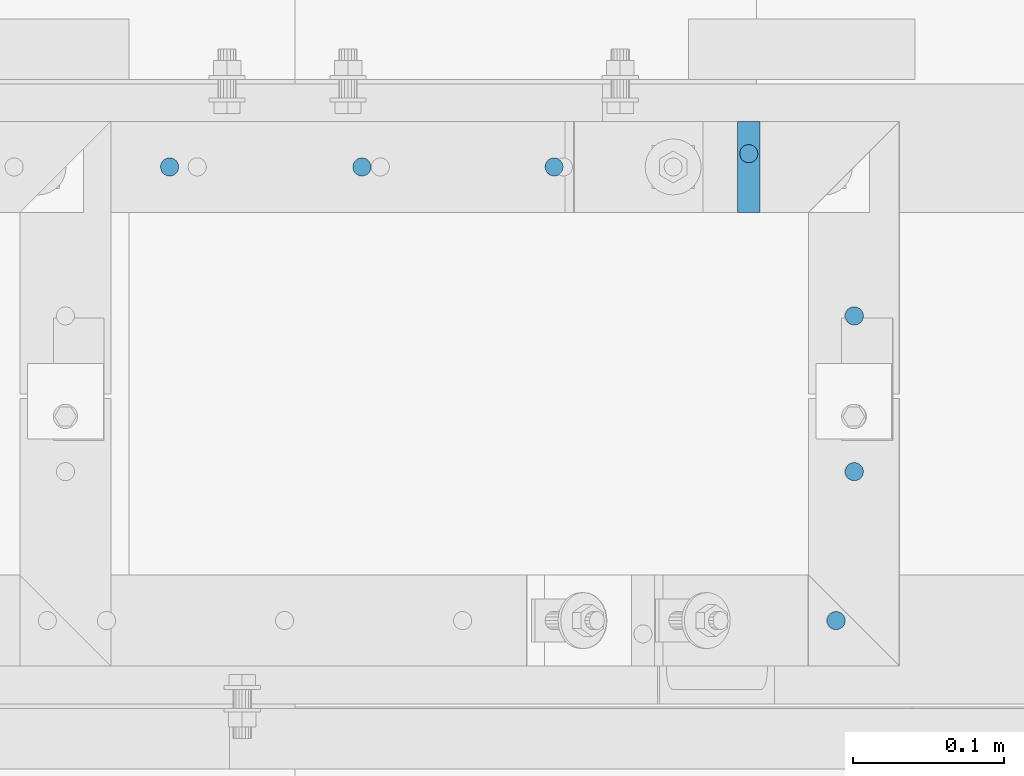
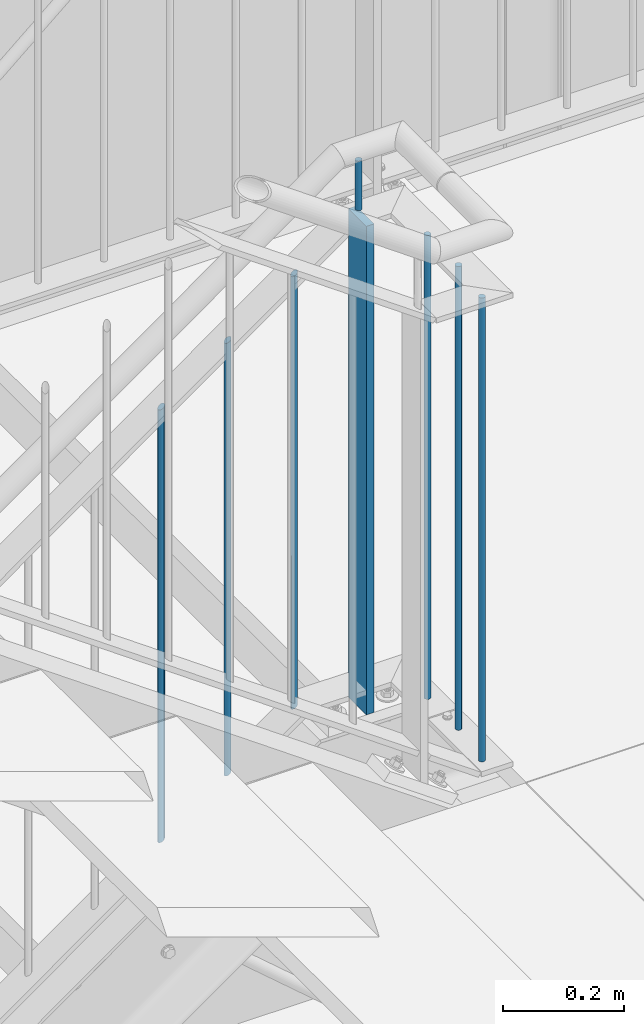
# One storey, part 92 of 825: 8 columns.
"""IFC2X3 building model written with IfcOpenShell, lengths in millimetres."""

import ifcopenshell
import ifcopenshell.guid

model = None  # the IFC model being written
_history = None  # IfcOwnerHistory: only IFC2X3 demands one
_inside = {}  # id of a spatial element -> (the spatial element, [elements in it])
_under = {}  # id of a project, library or spatial element -> (it, [spatial elements below it])
_declared = {}  # id of a project -> (the project, [libraries it declares])
_typed = {}  # id of a type object -> (the type object, [elements of that type])
_made_of = {}  # id of a material, layer set ... -> (it, [elements and type objects made of it])


def new_model(schema):
    """Start an empty IFC model of exactly this schema.

    Asked for "IFC4X3", IfcOpenShell would pick the latest addendum, in which some entities
    have other attributes; the version numbers below select the first issue.
    IFC2X3 requires an IfcOwnerHistory on every rooted entity: one is made here for all.
    """
    global model, _history
    if schema == "IFC4X3":
        model = ifcopenshell.file(schema_version=(4, 3, 0, 0))
    else:
        model = ifcopenshell.file(schema=schema)
    _inside.clear()
    _under.clear()
    _declared.clear()
    _typed.clear()
    _made_of.clear()
    _history = None
    if model.schema == "IFC2X3":
        org = make("IfcOrganization", Name="unknown")
        user = make(
            "IfcPersonAndOrganization",
            ThePerson=make("IfcPerson", FamilyName="unknown"),
            TheOrganization=org,
        )
        app = make(
            "IfcApplication",
            ApplicationDeveloper=org,
            Version="unknown",
            ApplicationFullName="unknown",
            ApplicationIdentifier="unknown",
        )
        _history = make(
            "IfcOwnerHistory",
            OwningUser=user,
            OwningApplication=app,
            ChangeAction="ADDED",
            CreationDate=0,
        )
    return model


def make(cls, **values):
    """One entity of the class cls with the attributes given. An attribute that is None is left unset."""
    return model.create_entity(
        cls, **{name: value for name, value in values.items() if value is not None}
    )


def entity(cls, *values):
    """Any entity or typed value of the class cls, its attributes in the order of the schema. None: left unset."""
    e = model.create_entity(cls)
    for i, value in enumerate(values):
        if value is not None:
            e[i] = value
    return e


def rooted(cls, **values):
    """An entity with a GlobalId (a new one), such as an element, a storey or a relation."""
    return make(cls, GlobalId=ifcopenshell.guid.new(), OwnerHistory=_history, **values)


def si_unit(unit_type, name, prefix=None):
    """IfcSIUnit, for example si_unit("LENGTHUNIT", "METRE", prefix="MILLI")."""
    return make("IfcSIUnit", UnitType=unit_type, Prefix=prefix, Name=name)


def converted_unit(unit_type, name, factor, base, dimensions=None, offset=None):
    """IfcConversionBasedUnit, such as the inch: factor (a typed value) times the base unit."""
    return make(
        "IfcConversionBasedUnit"
        if offset is None
        else "IfcConversionBasedUnitWithOffset",
        ConversionOffset=offset,
        Dimensions=None
        if dimensions is None
        else entity("IfcDimensionalExponents", *dimensions),
        UnitType=unit_type,
        Name=name,
        ConversionFactor=make(
            "IfcMeasureWithUnit", ValueComponent=factor, UnitComponent=base
        ),
    )


def assignment(units):
    """IfcUnitAssignment: the units of a project."""
    return None if units is None else make("IfcUnitAssignment", Units=units)


def point(xyz):
    """IfcCartesianPoint."""
    return None if xyz is None else make("IfcCartesianPoint", Coordinates=xyz)


def direction(xyz):
    """IfcDirection."""
    return None if xyz is None else make("IfcDirection", DirectionRatios=xyz)


def frame(location, z_axis=None, x_axis=None):
    """IfcAxis2Placement3D, a coordinate frame: its origin and axes. An axis left out is left unset."""
    return make(
        "IfcAxis2Placement3D",
        Location=point(location),
        Axis=direction(z_axis),
        RefDirection=direction(x_axis),
    )


def frame_2d(location, x_axis=None):
    """IfcAxis2Placement2D, a coordinate frame in the plane: its origin and x axis."""
    return make(
        "IfcAxis2Placement2D", Location=point(location), RefDirection=direction(x_axis)
    )


def origin():
    """The frame at (0, 0, 0) with its axes left unset."""
    return frame((0.0, 0.0, 0.0))


def origin_with_axes():
    """The frame at (0, 0, 0) with the z axis (0, 0, 1) and the x axis (1, 0, 0) written out."""
    return frame((0.0, 0.0, 0.0), z_axis=(0.0, 0.0, 1.0), x_axis=(1.0, 0.0, 0.0))


def origin_2d():
    """The frame at (0, 0) in the plane with its x axis left unset."""
    return frame_2d((0.0, 0.0))


def place(relative_to, where):
    """IfcLocalPlacement: puts the frame where relative to a parent placement (None: the world)."""
    return make(
        "IfcLocalPlacement", PlacementRelTo=relative_to, RelativePlacement=where
    )


def context(
    kind, dimensions, precision=None, world=None, true_north=None, identifier=None
):
    """IfcGeometricRepresentationContext, for example the 3D "Model" context."""
    return make(
        "IfcGeometricRepresentationContext",
        ContextIdentifier=identifier,
        ContextType=kind,
        CoordinateSpaceDimension=dimensions,
        Precision=precision,
        WorldCoordinateSystem=world,
        TrueNorth=true_north,
    )


def project(units=None, contexts=None):
    """IfcProject with its units and contexts."""
    return rooted(
        "IfcProject",
        Name="project",
        RepresentationContexts=contexts,
        UnitsInContext=assignment(units),
    )


def spatial(cls, under=None, at=None, **own):
    """A site, building, storey or space (cls), placed at a placement, below another one or the project."""
    s = rooted(cls, ObjectPlacement=at, **own)
    if under is not None:
        _under.setdefault(under.id(), (under, []))[1].append(s)
    return s


def profile(cls, at=None, kind="AREA", **sizes):
    """A parametric profile (cls). Its sizes go by their IFC names, for example OverallWidth=200.0."""
    return make(cls, ProfileType=kind, Position=at, **sizes)


def rectangle(**sizes):
    """IfcRectangleProfileDef."""
    return profile("IfcRectangleProfileDef", **sizes)


def circle(**sizes):
    """IfcCircleProfileDef."""
    return profile("IfcCircleProfileDef", **sizes)


def extrude(swept, where, along, depth):
    """IfcExtrudedAreaSolid: the profile swept, set in the frame where, extruded along a direction by depth."""
    return make(
        "IfcExtrudedAreaSolid",
        SweptArea=swept,
        Position=where,
        ExtrudedDirection=direction(along),
        Depth=depth,
    )


def clip(a, b, op="DIFFERENCE"):
    """IfcBooleanClippingResult: the solid a cut by the half space b."""
    return make(
        "IfcBooleanClippingResult", Operator=op, FirstOperand=a, SecondOperand=b
    )


def halfspace(plane, agree):
    """IfcHalfSpaceSolid: all space on one side of the plane z = 0 of the frame plane."""
    return make(
        "IfcHalfSpaceSolid",
        BaseSurface=make("IfcPlane", Position=plane),
        AgreementFlag=agree,
    )


def shape(context_of_items, identifier, shape_type, items):
    """IfcShapeRepresentation: the items that make up one representation, for example the "Body"."""
    return make(
        "IfcShapeRepresentation",
        ContextOfItems=context_of_items,
        RepresentationIdentifier=identifier,
        RepresentationType=shape_type,
        Items=items,
    )


def material(Name=None, Category=None):
    """IfcMaterial."""
    return make("IfcMaterial", Name=Name, Category=Category)


def made_of(thing, what):
    """Note that an element or type object is made of a material, layer set ...; save() writes the relation."""
    if what is not None:
        _made_of.setdefault(what.id(), (what, []))[1].append(thing)
    return thing


def element(
    cls,
    number,
    at=None,
    inside=None,
    cuts=None,
    type_object=None,
    material=None,
    context=None,
    identifier="Body",
    shape_type=None,
    held_by="IfcProductDefinitionShape",
    body=None,
    shapes=None,
    **own,
):
    """One element of the class cls, such as IfcWall. Its Tag is "e" and its number.

    at: its placement. inside: the storey or other place that contains it. cuts: it is an
    opening in that element (IfcRelVoidsElement). A single representation is given by context,
    identifier, shape_type and body (its items); several are given by shapes. held_by: the class
    of the entity that holds the representations. save() writes the other relations.
    """
    e = rooted(cls, Tag="e%d" % number, ObjectPlacement=at, **own)
    if body is not None:
        shapes = [shape(context, identifier, shape_type, body)]
    if shapes is not None:
        e.Representation = make(held_by, Representations=shapes)
    if inside is not None:
        _inside.setdefault(inside.id(), (inside, []))[1].append(e)
    if cuts is not None:
        rooted(
            "IfcRelVoidsElement", RelatingBuildingElement=cuts, RelatedOpeningElement=e
        )
    if type_object is not None:
        _typed.setdefault(type_object.id(), (type_object, []))[1].append(e)
    return made_of(e, material)


def aggregate(whole, parts):
    """IfcRelAggregates: a whole, such as a stair, and the parts it consists of."""
    return rooted("IfcRelAggregates", RelatingObject=whole, RelatedObjects=parts)


def save(model, path):
    """Write the relations noted so far, then the file.

    IfcRelAggregates (storeys below a building ...), IfcRelContainedInSpatialStructure (elements
    in a storey), IfcRelDefinesByType, IfcRelAssociatesMaterial and IfcRelDeclares: one each for
    every whole, place, type object, material and project.
    """
    for whole, parts in _under.values():
        aggregate(whole, parts)
    for where, things in _inside.values():
        rooted(
            "IfcRelContainedInSpatialStructure",
            RelatedElements=things,
            RelatingStructure=where,
        )
    for kind, things in _typed.values():
        rooted("IfcRelDefinesByType", RelatedObjects=things, RelatingType=kind)
    for what, things in _made_of.values():
        rooted("IfcRelAssociatesMaterial", RelatedObjects=things, RelatingMaterial=what)
    for by, libraries in _declared.values():
        rooted("IfcRelDeclares", RelatingContext=by, RelatedDefinitions=libraries)
    model.write(path)


model = new_model("IFC2X3")

# Units and contexts
model_context = context("Model", 3, precision=1e-09, world=origin_with_axes())
ifc_project = project(units=[si_unit("LENGTHUNIT", "METRE", prefix="MILLI"), si_unit("AREAUNIT", "SQUARE_METRE"), si_unit("VOLUMEUNIT", "CUBIC_METRE"), converted_unit("PLANEANGLEUNIT", "DEGREE", entity("IfcPlaneAngleMeasure", 0.01745329), si_unit("PLANEANGLEUNIT", "RADIAN"), dimensions=[0, 0, 0, 0, 0, 0, 0])], contexts=[model_context])

# Site, building, storey
site_placement = place(None, origin_with_axes())
site = spatial("IfcSite", under=ifc_project, at=site_placement, Name="Cnopf'sche Kinderklinik", CompositionType="ELEMENT")
building_placement = place(site_placement, origin_with_axes())
building = spatial("IfcBuilding", under=site, at=building_placement, Name="Struktur 1", CompositionType="ELEMENT")
storey_placement = place(building_placement, origin_with_axes())
storey = spatial("IfcBuildingStorey", under=building, at=storey_placement, Name="Default Storey", CompositionType="ELEMENT", Elevation=0.0)

# Columns
ifc_material = material(Name="S235JR")
for number, where, z_axis, x_axis, name in (
    (1, (7674.536342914, 5791.736971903, 3189.8526312), (0.0, 0.0, 1.0), (-1.0, 0.0, 0.0), "Railing_Picket_Stair#0"),
    (2, (7686.536342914, 5890.236971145, 3189.8526312), (0.0, 0.0, 1.0), (-1.0, 0.0, 0.0), "Railing_Picket_Stair#0"),
    (3, (7686.536342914, 5993.236971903, 3189.8526312), (0.0, 0.0, 1.0), (-1.0, 0.0, 0.0), "Railing_Picket_Stair#0"),
):
    element("IfcColumn", number, at=place(None, frame(where, z_axis=z_axis, x_axis=x_axis)), inside=storey, material=ifc_material, Name=name, ObjectType="Railing_Picket_Stair#0", context=model_context, shape_type="SweptSolid", body=[
        extrude(circle(Radius=6.0, at=origin_2d()), origin(), (0.0, 0.0, -1.0), 938.8),
    ])
column_1_placement = place(None, frame((7616.713902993, 6091.736971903, 3220.775923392), z_axis=(0.0, 0.0, 1.0), x_axis=(1.0, 0.0, 0.0)))
element("IfcColumn", 4, at=column_1_placement, inside=storey, material=ifc_material, Name="Railing_Post_Landing#2", ObjectType="Railing_Post_Landing#2", context=model_context, shape_type="Clipping", body=[
    clip(clip(extrude(rectangle(XDim=15.0, YDim=60.0, at=origin_2d()), origin(), (0.0, 0.0, -1.0), 1070.646584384), halfspace(frame((-7616.713902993, -6091.736971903, -1019.722292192), z_axis=(0.0, 0.0, 1.0), x_axis=(1.0, 0.0, 0.0)), True)), halfspace(frame((-7616.713902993, -6091.736971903, -30.924292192), z_axis=(0.0, 0.0, -1.0), x_axis=(-1.0, 0.0, 0.0)), True)),
])
column_2_placement = place(None, frame((7233.712534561, 6091.736971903, 2948.972146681), z_axis=(0.0, 0.0, 1.0), x_axis=(1.0, 0.0, 0.0)))
element("IfcColumn", 5, at=column_2_placement, inside=storey, material=ifc_material, Name="Railing_Picket_Stair#13", ObjectType="Railing_Picket_Stair#13", context=model_context, shape_type="Clipping", body=[
    clip(clip(extrude(circle(Radius=6.0, at=origin_2d()), origin(), (0.0, 0.0, -1.0), 896.604693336), halfspace(frame((-6188.880635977, -6091.736971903, -4416.549507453), z_axis=(0.579973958, 0.0, -0.814635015), x_axis=(0.0, 1.0, 0.0)), True)), halfspace(frame((-5775.108066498, -6091.736971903, -4997.737023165), z_axis=(-0.579973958, 0.0, 0.814635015), x_axis=(0.0, -1.0, 0.0)), True)),
])
column_3_placement = place(None, frame((7360.878218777, 6091.736971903, 3039.506906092), z_axis=(0.0, 0.0, 1.0), x_axis=(1.0, 0.0, 0.0)))
element("IfcColumn", 6, at=column_3_placement, inside=storey, material=ifc_material, Name="Railing_Picket_Stair#14", ObjectType="Railing_Picket_Stair#14", context=model_context, shape_type="Clipping", body=[
    clip(clip(extrude(circle(Radius=6.0, at=origin_2d()), origin(), (0.0, 0.0, -1.0), 896.604693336), halfspace(frame((-6316.046320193, -6091.736971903, -4507.084266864), z_axis=(0.579973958, 0.0, -0.814635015), x_axis=(0.0, 1.0, 0.0)), True)), halfspace(frame((-5902.273750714, -6091.736971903, -5088.271782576), z_axis=(-0.579973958, 0.0, 0.814635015), x_axis=(0.0, -1.0, 0.0)), True)),
])
column_4_placement = place(None, frame((7488.043902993, 6091.736971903, 3130.041665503), z_axis=(0.0, 0.0, 1.0), x_axis=(1.0, 0.0, 0.0)))
element("IfcColumn", 7, at=column_4_placement, inside=storey, material=ifc_material, Name="Railing_Picket_Stair#15", ObjectType="Railing_Picket_Stair#15", context=model_context, shape_type="Clipping", body=[
    clip(clip(extrude(circle(Radius=6.0, at=origin_2d()), origin(), (0.0, 0.0, -1.0), 896.604693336), halfspace(frame((-6443.212004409, -6091.736971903, -4597.619026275), z_axis=(0.579973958, 0.0, -0.814635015), x_axis=(0.0, 1.0, 0.0)), True)), halfspace(frame((-6029.43943493, -6091.736971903, -5178.806541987), z_axis=(-0.579973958, 0.0, 0.814635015), x_axis=(0.0, -1.0, 0.0)), True)),
])
column_5_placement = place(None, frame((7616.713902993, 6100.536971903, 3308.337912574), z_axis=(0.0, 0.0, 1.0), x_axis=(0.0, -1.0, 0.0)))
element("IfcColumn", 8, at=column_5_placement, inside=storey, material=ifc_material, Name="Bar#2", ObjectType="Bar#2", context=model_context, shape_type="Clipping", body=[
    clip(clip(extrude(circle(Radius=6.0, at=origin_2d()), origin(), (0.0, 0.0, -1.0), 116.970562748), halfspace(frame((6100.536971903, -7616.713902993, -8.486281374), z_axis=(0.0, 0.0, -1.0), x_axis=(0.0, -1.0, 0.0)), True)), halfspace(frame((6100.536971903, -7616.713902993, -108.484281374), z_axis=(0.0, 0.0, 1.0), x_axis=(0.0, 1.0, 0.0)), True)),
])

save(model, "model.ifc")
